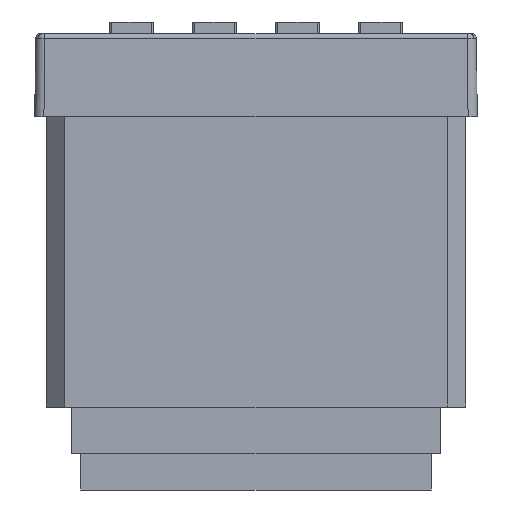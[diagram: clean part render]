
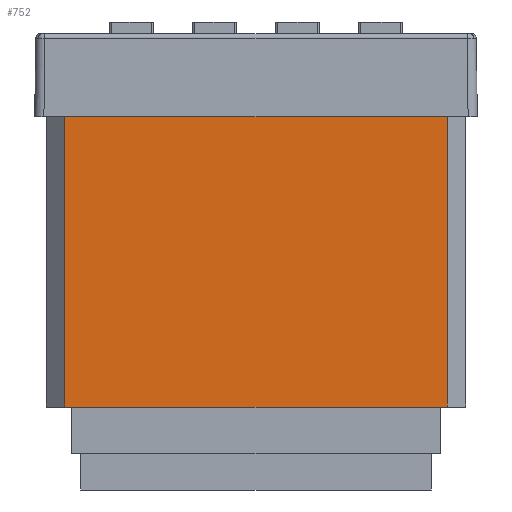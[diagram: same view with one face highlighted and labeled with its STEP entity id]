
A CAD part, front view. The second image highlights one B-rep face of the part: STEP entity #752.
In plain terms, the highlighted planar face has unit normal (0, -1, 0).
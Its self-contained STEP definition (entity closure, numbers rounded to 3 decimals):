
#46 = EDGE_CURVE ( 'NONE', #658, #785, #989, .T. ) ;
#66 = CARTESIAN_POINT ( 'NONE',  ( -41.5, -45.5, -63. ) ) ;
#86 = DIRECTION ( 'NONE',  ( -1., 0., 0. ) ) ;
#155 = CARTESIAN_POINT ( 'NONE',  ( -41.5, -45.5, -63. ) ) ;
#301 = DIRECTION ( 'NONE',  ( 0., 1., 0. ) ) ;
#379 = DIRECTION ( 'NONE',  ( 0., 0., 1. ) ) ;
#380 = VECTOR ( 'NONE', #515, 1000. ) ;
#405 = LINE ( 'NONE', #1242, #2432 ) ;
#515 = DIRECTION ( 'NONE',  ( -1., 0., 0. ) ) ;
#517 = VECTOR ( 'NONE', #379, 1000. ) ;
#585 = VERTEX_POINT ( 'NONE', #1585 ) ;
#586 = LINE ( 'NONE', #947, #517 ) ;
#658 = VERTEX_POINT ( 'NONE', #66 ) ;
#736 = CARTESIAN_POINT ( 'NONE',  ( 41.5, -45.5, 0. ) ) ;
#752 = ADVANCED_FACE ( 'NONE', ( #2122 ), #2049, .F. ) ;
#779 = DIRECTION ( 'NONE',  ( 0., 0., 1. ) ) ;
#783 = AXIS2_PLACEMENT_3D ( 'NONE', #2445, #301, #1653 ) ;
#785 = VERTEX_POINT ( 'NONE', #1856 ) ;
#858 = EDGE_CURVE ( 'NONE', #585, #658, #1405, .T. ) ;
#918 = ORIENTED_EDGE ( 'NONE', *, *, #1561, .T. ) ;
#947 = CARTESIAN_POINT ( 'NONE',  ( 41.5, -45.5, -63. ) ) ;
#989 = LINE ( 'NONE', #155, #1989 ) ;
#1242 = CARTESIAN_POINT ( 'NONE',  ( 41.5, -45.5, 0. ) ) ;
#1360 = ORIENTED_EDGE ( 'NONE', *, *, #858, .F. ) ;
#1405 = LINE ( 'NONE', #1677, #380 ) ;
#1498 = EDGE_CURVE ( 'NONE', #585, #2332, #586, .T. ) ;
#1561 = EDGE_CURVE ( 'NONE', #2332, #785, #405, .T. ) ;
#1585 = CARTESIAN_POINT ( 'NONE',  ( 41.5, -45.5, -63. ) ) ;
#1653 = DIRECTION ( 'NONE',  ( -1., 0., 0. ) ) ;
#1677 = CARTESIAN_POINT ( 'NONE',  ( 41.5, -45.5, -63. ) ) ;
#1856 = CARTESIAN_POINT ( 'NONE',  ( -41.5, -45.5, 0. ) ) ;
#1898 = EDGE_LOOP ( 'NONE', ( #918, #2243, #1360, #2220 ) ) ;
#1989 = VECTOR ( 'NONE', #779, 1000. ) ;
#2049 = PLANE ( 'NONE',  #783 ) ;
#2122 = FACE_OUTER_BOUND ( 'NONE', #1898, .T. ) ;
#2220 = ORIENTED_EDGE ( 'NONE', *, *, #1498, .T. ) ;
#2243 = ORIENTED_EDGE ( 'NONE', *, *, #46, .F. ) ;
#2332 = VERTEX_POINT ( 'NONE', #736 ) ;
#2432 = VECTOR ( 'NONE', #86, 1000. ) ;
#2445 = CARTESIAN_POINT ( 'NONE',  ( 41.5, -45.5, -63. ) ) ;
